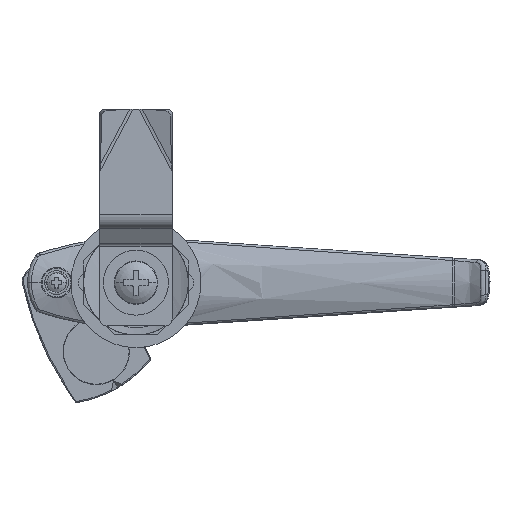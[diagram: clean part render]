
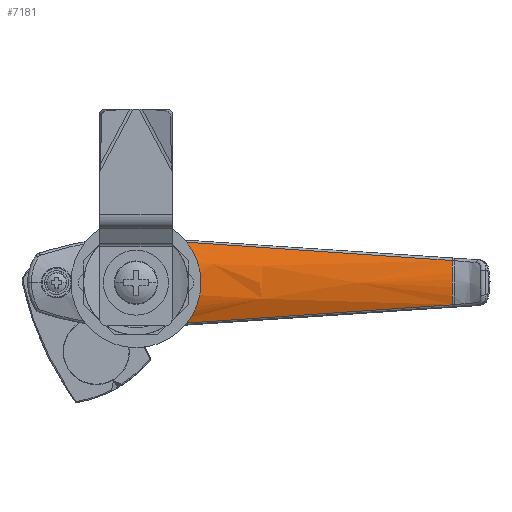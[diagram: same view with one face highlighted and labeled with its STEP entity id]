
A CAD part, front view. The second image highlights one B-rep face of the part: STEP entity #7181.
In plain terms, the highlighted free-form (B-spline) face has degree [3, 3] with [5, 4] control points.
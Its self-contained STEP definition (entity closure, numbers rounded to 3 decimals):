
#2969=CARTESIAN_POINT('',(-11.663,-7.314,
-9.786));
#2981=CARTESIAN_POINT('',(6.135,-87.543,
-9.734));
#2982=CARTESIAN_POINT('',(6.349,-84.518,
-9.739));
#2983=CARTESIAN_POINT('',(6.783,-78.347,
-9.748));
#2984=CARTESIAN_POINT('',(7.471,-68.481,
-9.759));
#2985=CARTESIAN_POINT('',(8.144,-58.776,
-9.767));
#2986=CARTESIAN_POINT('',(8.802,-49.217,
-9.772));
#2987=CARTESIAN_POINT('',(9.447,-39.815,
-9.777));
#2988=CARTESIAN_POINT('',(10.111,-30.113,
-9.781));
#2989=CARTESIAN_POINT('',(10.826,-19.62,
-9.784));
#2990=CARTESIAN_POINT('',(11.374,-11.565,
-9.786));
#2991=CARTESIAN_POINT('',(11.663,-7.315,
-9.786));
#2993=CARTESIAN_POINT('',(11.663,-7.315,
-9.786));
#2994=CARTESIAN_POINT('',(11.588,-7.46,
-9.82));
#2995=CARTESIAN_POINT('',(11.421,-7.766,-9.895));
#2996=CARTESIAN_POINT('',(11.127,-8.269,
-10.026));
#2997=CARTESIAN_POINT('',(10.766,-8.831,
-10.183));
#2998=CARTESIAN_POINT('',(10.345,-9.424,
-10.362));
#2999=CARTESIAN_POINT('',(9.898,-9.993,
-10.545));
#3000=CARTESIAN_POINT('',(9.427,-10.538,
-10.732));
#3001=CARTESIAN_POINT('',(8.93,-11.059,
-10.92));
#3002=CARTESIAN_POINT('',(8.409,-11.553,
-11.108));
#3003=CARTESIAN_POINT('',(7.867,-12.019,
-11.293));
#3004=CARTESIAN_POINT('',(7.305,-12.454,
-11.472));
#3005=CARTESIAN_POINT('',(6.724,-12.858,
-11.644));
#3006=CARTESIAN_POINT('',(6.128,-13.228,
-11.807));
#3007=CARTESIAN_POINT('',(5.516,-13.564,
-11.959));
#3008=CARTESIAN_POINT('',(4.895,-13.863,
-12.097));
#3009=CARTESIAN_POINT('',(4.274,-14.121,
-12.219));
#3010=CARTESIAN_POINT('',(3.656,-14.341,
-12.324));
#3011=CARTESIAN_POINT('',(3.041,-14.524,
-12.413));
#3012=CARTESIAN_POINT('',(2.429,-14.671,
-12.485));
#3013=CARTESIAN_POINT('',(1.819,-14.784,
-12.541));
#3014=CARTESIAN_POINT('',(1.211,-14.863,
-12.58));
#3015=CARTESIAN_POINT('',(0.605,-14.911,
-12.604));
#3016=CARTESIAN_POINT('',(0.202,-14.921,
-12.609));
#3017=CARTESIAN_POINT('',(0.,-14.921,
-12.609));
#3019=CARTESIAN_POINT('',(0.,-14.921,
-12.609));
#3020=CARTESIAN_POINT('',(-0.201,-14.921,
-12.609));
#3021=CARTESIAN_POINT('',(-0.604,-14.911,
-12.604));
#3022=CARTESIAN_POINT('',(-1.208,-14.864,
-12.58));
#3023=CARTESIAN_POINT('',(-1.814,-14.784,
-12.541));
#3024=CARTESIAN_POINT('',(-2.423,-14.672,
-12.485));
#3025=CARTESIAN_POINT('',(-3.034,-14.526,
-12.413));
#3026=CARTESIAN_POINT('',(-3.647,-14.344,
-12.325));
#3027=CARTESIAN_POINT('',(-4.264,-14.126,
-12.221));
#3028=CARTESIAN_POINT('',(-4.883,-13.868,
-12.099));
#3029=CARTESIAN_POINT('',(-5.503,-13.571,
-11.962));
#3030=CARTESIAN_POINT('',(-6.113,-13.237,
-11.811));
#3031=CARTESIAN_POINT('',(-6.708,-12.868,
-11.649));
#3032=CARTESIAN_POINT('',(-7.288,-12.466,
-11.477));
#3033=CARTESIAN_POINT('',(-7.849,-12.033,
-11.299));
#3034=CARTESIAN_POINT('',(-8.391,-11.57,
-11.114));
#3035=CARTESIAN_POINT('',(-8.91,-11.078,
-10.928));
#3036=CARTESIAN_POINT('',(-9.408,-10.559,
-10.739));
#3037=CARTESIAN_POINT('',(-9.882,-10.013,
-10.552));
#3038=CARTESIAN_POINT('',(-10.316,-9.461,
-10.374));
#3039=CARTESIAN_POINT('',(-10.688,-8.942,
-10.216));
#3040=CARTESIAN_POINT('',(-10.996,-8.475,
-10.083));
#3041=CARTESIAN_POINT('',(-11.256,-8.051,
-9.969));
#3042=CARTESIAN_POINT('',(-11.477,-7.663,
-9.87));
#3043=CARTESIAN_POINT('',(-11.605,-7.427,
-9.813));
#3044=CARTESIAN_POINT('',(-11.663,-7.314,
-9.786));
#3046=CARTESIAN_POINT('',(-11.663,-7.314,
-9.786));
#3047=CARTESIAN_POINT('',(-11.374,-11.565,
-9.786));
#3048=CARTESIAN_POINT('',(-10.826,-19.621,
-9.784));
#3049=CARTESIAN_POINT('',(-10.111,-30.113,
-9.781));
#3050=CARTESIAN_POINT('',(-9.447,-39.815,
-9.777));
#3051=CARTESIAN_POINT('',(-8.802,-49.217,
-9.772));
#3052=CARTESIAN_POINT('',(-8.144,-58.776,
-9.767));
#3053=CARTESIAN_POINT('',(-7.471,-68.481,
-9.759));
#3054=CARTESIAN_POINT('',(-6.783,-78.347,
-9.748));
#3055=CARTESIAN_POINT('',(-6.349,-84.518,
-9.739));
#3056=CARTESIAN_POINT('',(-6.135,-87.543,
-9.734));
#3068=CARTESIAN_POINT('',(-6.135,-87.543,
-9.734));
#3080=CARTESIAN_POINT('',(6.135,-87.543,
-9.734));
#3082=CARTESIAN_POINT('',(-6.135,-87.543,
-9.734));
#3083=CARTESIAN_POINT('',(-4.09,-87.556,
-10.383));
#3084=CARTESIAN_POINT('',(0.,-87.568,
-11.031));
#3085=CARTESIAN_POINT('',(4.09,-87.556,
-10.383));
#3086=CARTESIAN_POINT('',(6.135,-87.543,
-9.734));
#4168=CARTESIAN_POINT('',(0.,-14.921,
-12.609));
#4169=VERTEX_POINT('',#4168);
#4210=VERTEX_POINT('',#3068);
#4223=VERTEX_POINT('',#3080);
#4225=VERTEX_POINT('',#2991);
#4269=VERTEX_POINT('',#2969);
#7151=CARTESIAN_POINT('',(-6.599,-88.341,
-9.563));
#7152=CARTESIAN_POINT('',(-8.389,-60.901,
-9.6));
#7153=CARTESIAN_POINT('',(-10.154,-33.775,
-9.638));
#7154=CARTESIAN_POINT('',(-11.929,-6.513,
-9.676));
#7155=CARTESIAN_POINT('',(-4.399,-88.345,
-10.312));
#7156=CARTESIAN_POINT('',(-5.592,-61.282,
-10.793));
#7157=CARTESIAN_POINT('',(-6.769,-33.811,
-11.289));
#7158=CARTESIAN_POINT('',(-7.953,-6.518,
-11.778));
#7159=CARTESIAN_POINT('',(0.,-88.349,
-11.061));
#7160=CARTESIAN_POINT('',(0.,-61.663,
-11.987));
#7161=CARTESIAN_POINT('',(0.,-33.847,
-12.94));
#7162=CARTESIAN_POINT('',(0.,-6.523,
-13.881));
#7163=CARTESIAN_POINT('',(4.4,-88.345,
-10.312));
#7164=CARTESIAN_POINT('',(5.593,-61.282,
-10.793));
#7165=CARTESIAN_POINT('',(6.77,-33.811,
-11.289));
#7166=CARTESIAN_POINT('',(7.953,-6.518,
-11.778));
#7167=CARTESIAN_POINT('',(6.6,-88.341,
-9.562));
#7168=CARTESIAN_POINT('',(8.389,-60.901,
-9.599));
#7169=CARTESIAN_POINT('',(10.154,-33.775,
-9.638));
#7170=CARTESIAN_POINT('',(11.93,-6.513,
-9.675));
#7171=B_SPLINE_SURFACE_WITH_KNOTS('',3,3,((#7151,#7152,#7153,#7154),(#7155,
#7156,#7157,#7158),(#7159,#7160,#7161,#7162),(#7163,#7164,#7165,#7166),(#7167,
#7168,#7169,#7170)),.UNSPECIFIED.,.F.,.F.,.F.,(4,1,4),(4,4),(0.013,
0.5,0.987),(0.093,0.933),.UNSPECIFIED.);
#7173=ORIENTED_EDGE('',*,*,#7172,.T.);
#7174=ORIENTED_EDGE('',*,*,#6830,.T.);
#7175=ORIENTED_EDGE('',*,*,#7141,.T.);
#7176=ORIENTED_EDGE('',*,*,#5674,.T.);
#7178=ORIENTED_EDGE('',*,*,#7177,.T.);
#7179=EDGE_LOOP('',(#7173,#7174,#7175,#7176,#7178));
#7180=FACE_OUTER_BOUND('',#7179,.F.);
#7181=ADVANCED_FACE('',(#7180),#7171,.F.);
#2992=B_SPLINE_CURVE_WITH_KNOTS('',3,(#2981,#2982,#2983,#2984,#2985,#2986,#2987,
#2988,#2989,#2990,#2991),.UNSPECIFIED.,.F.,.F.,(4,1,1,1,1,1,1,1,4),(0.,
0.125,0.25,0.375,0.5,0.625,0.75,0.875,1.),.UNSPECIFIED.);
#3018=B_SPLINE_CURVE_WITH_KNOTS('',3,(#2993,#2994,#2995,#2996,#2997,#2998,#2999,
#3000,#3001,#3002,#3003,#3004,#3005,#3006,#3007,#3008,#3009,#3010,#3011,#3012,
#3013,#3014,#3015,#3016,#3017),.UNSPECIFIED.,.F.,.F.,(4,1,1,1,1,1,1,1,1,1,1,1,1,
1,1,1,1,1,1,1,1,1,4),(0.,0.045,0.091,
0.136,0.182,0.227,0.273,
0.318,0.364,0.409,0.455,0.5,
0.545,0.591,0.636,0.682,
0.727,0.773,0.818,0.864,
0.909,0.955,1.),.UNSPECIFIED.);
#3045=B_SPLINE_CURVE_WITH_KNOTS('',3,(#3019,#3020,#3021,#3022,#3023,#3024,#3025,
#3026,#3027,#3028,#3029,#3030,#3031,#3032,#3033,#3034,#3035,#3036,#3037,#3038,
#3039,#3040,#3041,#3042,#3043,#3044),.UNSPECIFIED.,.F.,.F.,(4,1,1,1,1,1,1,1,1,1,
1,1,1,1,1,1,1,1,1,1,1,1,1,4),(0.,0.043,0.087,
0.13,0.174,0.217,0.261,
0.304,0.348,0.391,0.435,
0.478,0.522,0.565,0.609,
0.652,0.696,0.739,0.783,
0.826,0.87,0.913,0.957,1.),
.UNSPECIFIED.);
#3057=B_SPLINE_CURVE_WITH_KNOTS('',3,(#3046,#3047,#3048,#3049,#3050,#3051,#3052,
#3053,#3054,#3055,#3056),.UNSPECIFIED.,.F.,.F.,(4,1,1,1,1,1,1,1,4),(0.,
0.125,0.25,0.375,0.5,0.625,0.75,0.875,1.),.UNSPECIFIED.);
#3087=B_SPLINE_CURVE_WITH_KNOTS('',3,(#3082,#3083,#3084,#3085,#3086),
.UNSPECIFIED.,.F.,.F.,(4,1,4),(0.,0.5,1.),.UNSPECIFIED.);
#5674=EDGE_CURVE('',#4269,#4210,#3057,.T.);
#6830=EDGE_CURVE('',#4225,#4169,#3018,.T.);
#7141=EDGE_CURVE('',#4169,#4269,#3045,.T.);
#7172=EDGE_CURVE('',#4223,#4225,#2992,.T.);
#7177=EDGE_CURVE('',#4210,#4223,#3087,.T.);
